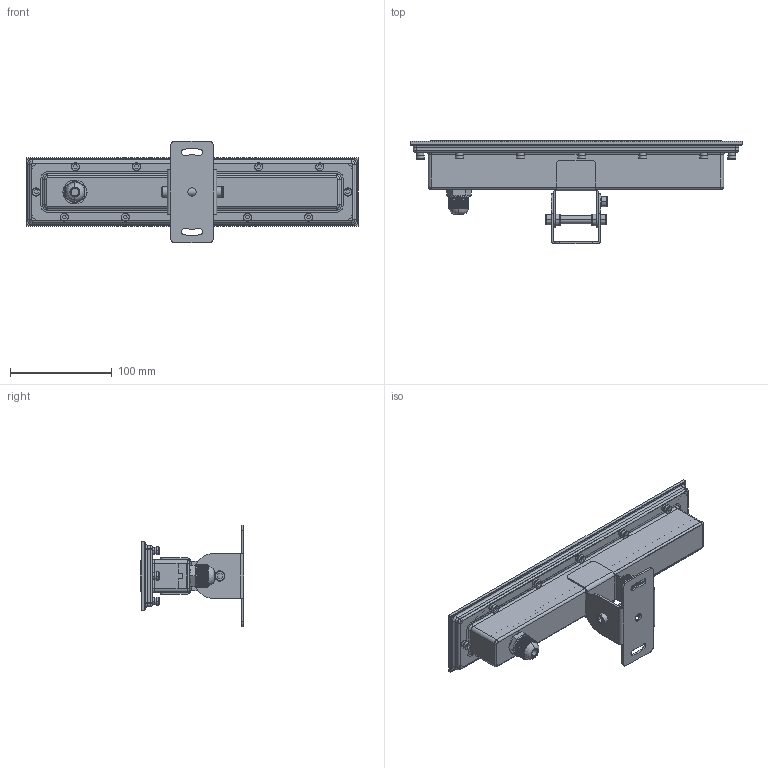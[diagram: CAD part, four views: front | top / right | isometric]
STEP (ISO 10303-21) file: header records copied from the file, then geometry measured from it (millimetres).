
FILE_DESCRIPTION((''),'2;1');
FILE_NAME('4QA-06_ASM','2023-05-16T',('Administrator'),(''),'CREO PARAMETRIC BY PTC INC, 2015200','CREO PARAMETRIC BY PTC INC, 2015200','');
FILE_SCHEMA(('CONFIG_CONTROL_DESIGN'));
Products named in the file (26): MIANGAI_178; CHUGUANGZHAO_173; 4P-1_ASM_168_ASM; HOUSING-DIE_187; SANREKUAI_162; ASM0001_ASM; PACKING-SILICON_125; DIAN_68; PG9_2; ZHIZI; MIANGAI-2; M4-6; WENKONGQI; ____1_D1BL2014_21; 2FL-06_21; B27A_21; 4QA-TUOJINGZHIJA_ASM; JIEGUANGMAO; SHANGZHIJIA-0_1; GANGGUAN_1; ISO4762-M6X10-8_8_2_94_1; XIAZHIJIA-1_1; LUOMU_1; SUJIAODIAN_1; ZHIJIA-0_ASM_1_ASM; 4QA-06_ASM
Assembly tree (55 placements, depth 3):
  4QA-06_ASM
    4P-1_ASM_168_ASM
      MIANGAI_178
      CHUGUANGZHAO_173
    HOUSING-DIE_187
    ASM0001_ASM
      SANREKUAI_162
    PACKING-SILICON_125
    DIAN_68
    PG9_2
    ZHIZI  x12
    MIANGAI-2
    M4-6  x12
    WENKONGQI
    ____1_D1BL2014_21
    4QA-TUOJINGZHIJA_ASM
      2FL-06_21
      B27A_21  x6
    JIEGUANGMAO
    ZHIJIA-0_ASM_1_ASM
      SHANGZHIJIA-0_1
      GANGGUAN_1
      ISO4762-M6X10-8_8_2_94_1  x3
      XIAZHIJIA-1_1
      LUOMU_1  x2
      SUJIAODIAN_1
Bounding box: 326.1 x 101.7 x 100 mm (x, y, z)
Volume: 395821.6 mm3; surface area: 377686.8 mm2
Topology: 51 solids, 51 shells, 3613 faces, 9953 edges, 6598 vertices
Faces by surface type: plane 1993, cylinder 1167, cone 327, bspline 58, torus 48, sphere 12, revolution 8
Entity records: 107861 total; most frequent: CARTESIAN_POINT 24771, ORIENTED_EDGE 17848, DIRECTION 16811, EDGE_CURVE 8924, AXIS2_PLACEMENT_3D 5984, VERTEX_POINT 5933, VECTOR 4835, LINE 4835
